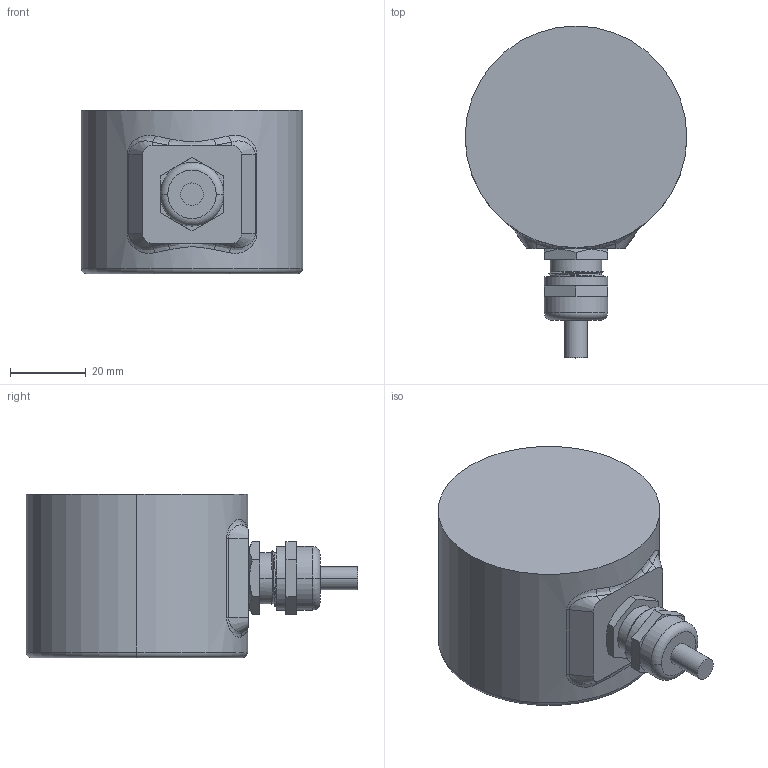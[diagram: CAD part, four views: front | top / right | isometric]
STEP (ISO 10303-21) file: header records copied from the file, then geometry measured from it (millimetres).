
FILE_DESCRIPTION (( 'STEP AP203' ), '1' );
FILE_NAME ('Drawing-MC-5-CR-432-SZM-NNN12B-N-CRW-N.STEP', '2013-11-22T07:58:52', ( 'Admin' ), ( 'Microsoft' ), 'SwSTEP 2.0', 'SolidWorks 2006104', '' );
FILE_SCHEMA (( 'CONFIG_CONTROL_DESIGN' ));
Length unit declared in the file: millimetre
Products named in the file (1): Drawing-MC-5-CR-432-SZM-NNN12B-N-CRW-N
Bounding box: 58.6 x 87.73 x 43.2 mm (x, y, z)
Volume: 15163.3 mm3; surface area: 28815 mm2
Topology: 4 solids, 4 shells, 136 faces, 312 edges, 193 vertices
Faces by surface type: plane 56, cylinder 42, bspline 24, torus 8, cone 6
Entity records: 17067 total; most frequent: CARTESIAN_POINT 14068, ORIENTED_EDGE 624, DIRECTION 581, EDGE_CURVE 312, AXIS2_PLACEMENT_3D 227, VERTEX_POINT 193, EDGE_LOOP 149, FACE_OUTER_BOUND 136
